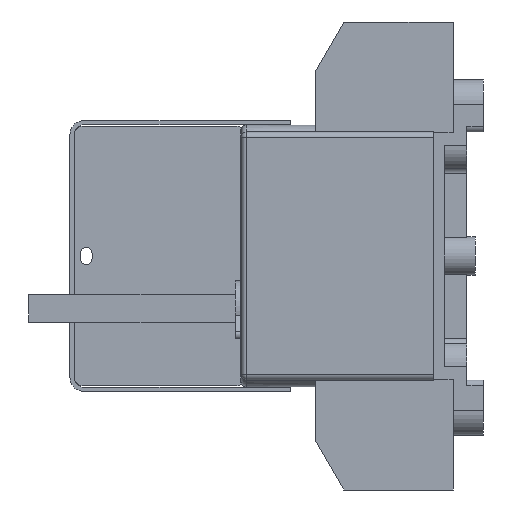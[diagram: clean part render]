
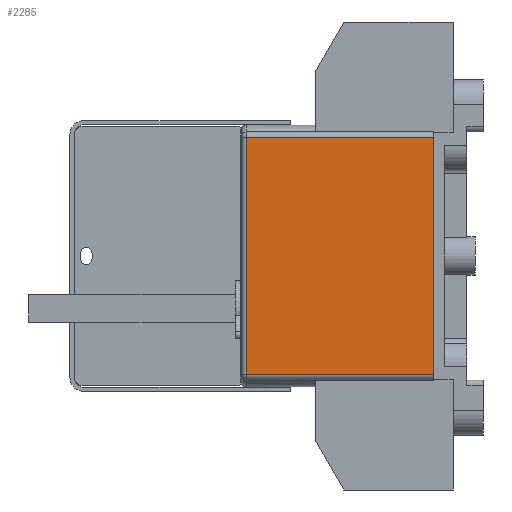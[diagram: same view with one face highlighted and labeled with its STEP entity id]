
A CAD part, left-side view. The second image highlights one B-rep face of the part: STEP entity #2285.
In plain terms, the highlighted planar face has unit normal (-1, 0, 0).
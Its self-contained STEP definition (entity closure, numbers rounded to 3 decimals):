
#2285=ADVANCED_FACE('',(#3724),#2900,.F.);
#2900=PLANE('',#19867);
#3724=FACE_OUTER_BOUND('',#4851,.T.);
#4851=EDGE_LOOP('',(#9808,#9809,#9810,#9811));
#9808=ORIENTED_EDGE('',*,*,#14425,.F.);
#9809=ORIENTED_EDGE('',*,*,#14410,.T.);
#9810=ORIENTED_EDGE('',*,*,#14426,.T.);
#9811=ORIENTED_EDGE('',*,*,#13865,.T.);
#11480=VERTEX_POINT('',#29139);
#11481=VERTEX_POINT('',#29141);
#11822=VERTEX_POINT('',#30244);
#11826=VERTEX_POINT('',#30260);
#13865=EDGE_CURVE('',#11481,#11480,#15965,.T.);
#14410=EDGE_CURVE('',#11822,#11826,#16343,.T.);
#14425=EDGE_CURVE('',#11822,#11480,#16351,.T.);
#14426=EDGE_CURVE('',#11826,#11481,#16352,.T.);
#15965=LINE('',#29140,#17891);
#16343=LINE('',#30261,#18269);
#16351=LINE('',#30300,#18277);
#16352=LINE('',#30302,#18278);
#17891=VECTOR('',#23810,1.);
#18269=VECTOR('',#24918,1.);
#18277=VECTOR('',#24946,1.);
#18278=VECTOR('',#24949,1.);
#19867=AXIS2_PLACEMENT_3D('',#30303,#24950,#24951);
#23810=DIRECTION('',(0.,0.,1.));
#24918=DIRECTION('',(0.,0.,-1.));
#24946=DIRECTION('',(0.,-1.,0.));
#24949=DIRECTION('',(0.,-1.,0.));
#24950=DIRECTION('',(1.,0.,0.));
#24951=DIRECTION('',(0.,0.,-1.));
#29139=CARTESIAN_POINT('',(-41.,0.,43.));
#29140=CARTESIAN_POINT('',(-41.,0.,-43.));
#29141=CARTESIAN_POINT('',(-41.,0.,-43.));
#30244=CARTESIAN_POINT('',(-41.,68.,43.));
#30260=CARTESIAN_POINT('',(-41.,68.,-43.));
#30261=CARTESIAN_POINT('',(-41.,68.,-43.));
#30300=CARTESIAN_POINT('',(-41.,35.,43.));
#30302=CARTESIAN_POINT('',(-41.,35.,-43.));
#30303=CARTESIAN_POINT('',(-41.,35.,-43.));
